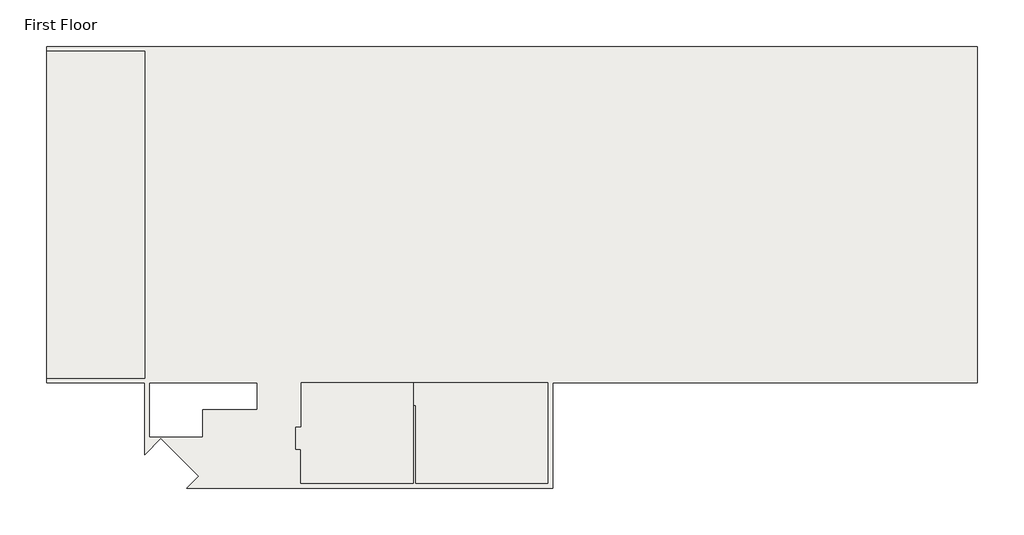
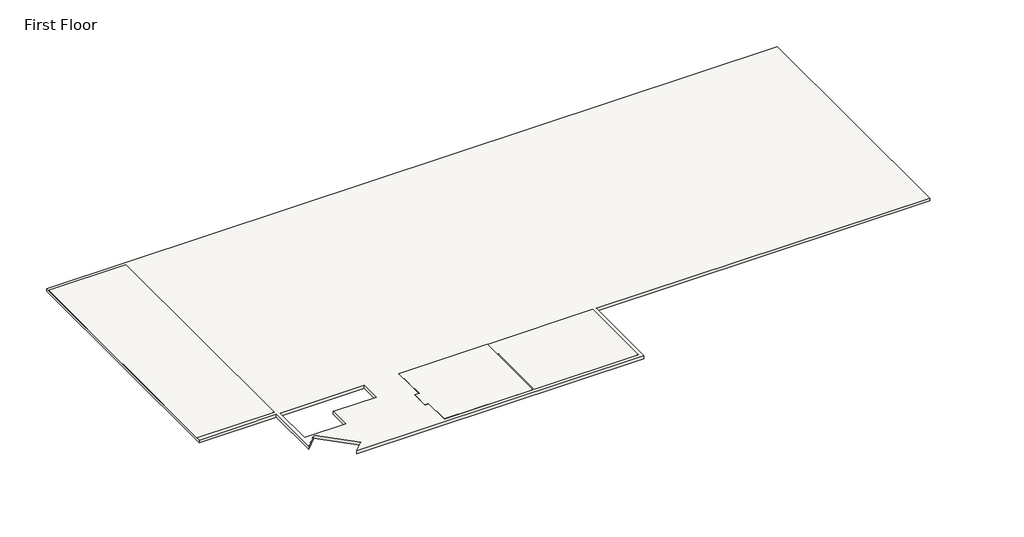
# One storey: 4 slabs.
"""IFC4 building model written with IfcOpenShell, lengths in millimetres."""

import ifcopenshell
import ifcopenshell.guid

model = None  # the IFC model being written
_history = None  # IfcOwnerHistory: only IFC2X3 demands one
_inside = {}  # id of a spatial element -> (the spatial element, [elements in it])
_under = {}  # id of a project, library or spatial element -> (it, [spatial elements below it])
_declared = {}  # id of a project -> (the project, [libraries it declares])
_typed = {}  # id of a type object -> (the type object, [elements of that type])
_made_of = {}  # id of a material, layer set ... -> (it, [elements and type objects made of it])


def new_model(schema):
    """Start an empty IFC model of exactly this schema.

    Asked for "IFC4X3", IfcOpenShell would pick the latest addendum, in which some entities
    have other attributes; the version numbers below select the first issue.
    IFC2X3 requires an IfcOwnerHistory on every rooted entity: one is made here for all.
    """
    global model, _history
    if schema == "IFC4X3":
        model = ifcopenshell.file(schema_version=(4, 3, 0, 0))
    else:
        model = ifcopenshell.file(schema=schema)
    _inside.clear()
    _under.clear()
    _declared.clear()
    _typed.clear()
    _made_of.clear()
    _history = None
    if model.schema == "IFC2X3":
        org = make("IfcOrganization", Name="unknown")
        user = make(
            "IfcPersonAndOrganization",
            ThePerson=make("IfcPerson", FamilyName="unknown"),
            TheOrganization=org,
        )
        app = make(
            "IfcApplication",
            ApplicationDeveloper=org,
            Version="unknown",
            ApplicationFullName="unknown",
            ApplicationIdentifier="unknown",
        )
        _history = make(
            "IfcOwnerHistory",
            OwningUser=user,
            OwningApplication=app,
            ChangeAction="ADDED",
            CreationDate=0,
        )
    return model


def make(cls, **values):
    """One entity of the class cls with the attributes given. An attribute that is None is left unset."""
    return model.create_entity(
        cls, **{name: value for name, value in values.items() if value is not None}
    )


def rooted(cls, **values):
    """An entity with a GlobalId (a new one), such as an element, a storey or a relation."""
    return make(cls, GlobalId=ifcopenshell.guid.new(), OwnerHistory=_history, **values)


def si_unit(unit_type, name, prefix=None):
    """IfcSIUnit, for example si_unit("LENGTHUNIT", "METRE", prefix="MILLI")."""
    return make("IfcSIUnit", UnitType=unit_type, Prefix=prefix, Name=name)


def assignment(units):
    """IfcUnitAssignment: the units of a project."""
    return None if units is None else make("IfcUnitAssignment", Units=units)


def point(xyz):
    """IfcCartesianPoint."""
    return None if xyz is None else make("IfcCartesianPoint", Coordinates=xyz)


def direction(xyz):
    """IfcDirection."""
    return None if xyz is None else make("IfcDirection", DirectionRatios=xyz)


def frame(location, z_axis=None, x_axis=None):
    """IfcAxis2Placement3D, a coordinate frame: its origin and axes. An axis left out is left unset."""
    return make(
        "IfcAxis2Placement3D",
        Location=point(location),
        Axis=direction(z_axis),
        RefDirection=direction(x_axis),
    )


def origin():
    """The frame at (0, 0, 0) with its axes left unset."""
    return frame((0.0, 0.0, 0.0))


def place(relative_to, where):
    """IfcLocalPlacement: puts the frame where relative to a parent placement (None: the world)."""
    return make(
        "IfcLocalPlacement", PlacementRelTo=relative_to, RelativePlacement=where
    )


def context(
    kind, dimensions, precision=None, world=None, true_north=None, identifier=None
):
    """IfcGeometricRepresentationContext, for example the 3D "Model" context."""
    return make(
        "IfcGeometricRepresentationContext",
        ContextIdentifier=identifier,
        ContextType=kind,
        CoordinateSpaceDimension=dimensions,
        Precision=precision,
        WorldCoordinateSystem=world,
        TrueNorth=true_north,
    )


def project(units=None, contexts=None):
    """IfcProject with its units and contexts."""
    return rooted(
        "IfcProject",
        Name="project",
        RepresentationContexts=contexts,
        UnitsInContext=assignment(units),
    )


def spatial(cls, under=None, at=None, **own):
    """A site, building, storey or space (cls), placed at a placement, below another one or the project."""
    s = rooted(cls, ObjectPlacement=at, **own)
    if under is not None:
        _under.setdefault(under.id(), (under, []))[1].append(s)
    return s


def polyline(points):
    """IfcPolyline through the points."""
    return make("IfcPolyline", Points=[point(p) for p in points])


def outline(outer, holes=None, kind="AREA"):
    """IfcArbitraryClosedProfileDef: a profile drawn as a closed curve; with holes, ...WithVoids."""
    if holes is None:
        return make("IfcArbitraryClosedProfileDef", ProfileType=kind, OuterCurve=outer)
    return make(
        "IfcArbitraryProfileDefWithVoids",
        ProfileType=kind,
        OuterCurve=outer,
        InnerCurves=holes,
    )


def extrude(swept, where, along, depth):
    """IfcExtrudedAreaSolid: the profile swept, set in the frame where, extruded along a direction by depth."""
    return make(
        "IfcExtrudedAreaSolid",
        SweptArea=swept,
        Position=where,
        ExtrudedDirection=direction(along),
        Depth=depth,
    )


def shape(context_of_items, identifier, shape_type, items):
    """IfcShapeRepresentation: the items that make up one representation, for example the "Body"."""
    return make(
        "IfcShapeRepresentation",
        ContextOfItems=context_of_items,
        RepresentationIdentifier=identifier,
        RepresentationType=shape_type,
        Items=items,
    )


def made_of(thing, what):
    """Note that an element or type object is made of a material, layer set ...; save() writes the relation."""
    if what is not None:
        _made_of.setdefault(what.id(), (what, []))[1].append(thing)
    return thing


def element(
    cls,
    number,
    at=None,
    inside=None,
    cuts=None,
    type_object=None,
    material=None,
    context=None,
    identifier="Body",
    shape_type=None,
    held_by="IfcProductDefinitionShape",
    body=None,
    shapes=None,
    **own,
):
    """One element of the class cls, such as IfcWall. Its Tag is "e" and its number.

    at: its placement. inside: the storey or other place that contains it. cuts: it is an
    opening in that element (IfcRelVoidsElement). A single representation is given by context,
    identifier, shape_type and body (its items); several are given by shapes. held_by: the class
    of the entity that holds the representations. save() writes the other relations.
    """
    e = rooted(cls, Tag="e%d" % number, ObjectPlacement=at, **own)
    if body is not None:
        shapes = [shape(context, identifier, shape_type, body)]
    if shapes is not None:
        e.Representation = make(held_by, Representations=shapes)
    if inside is not None:
        _inside.setdefault(inside.id(), (inside, []))[1].append(e)
    if cuts is not None:
        rooted(
            "IfcRelVoidsElement", RelatingBuildingElement=cuts, RelatedOpeningElement=e
        )
    if type_object is not None:
        _typed.setdefault(type_object.id(), (type_object, []))[1].append(e)
    return made_of(e, material)


def aggregate(whole, parts):
    """IfcRelAggregates: a whole, such as a stair, and the parts it consists of."""
    return rooted("IfcRelAggregates", RelatingObject=whole, RelatedObjects=parts)


def save(model, path):
    """Write the relations noted so far, then the file.

    IfcRelAggregates (storeys below a building ...), IfcRelContainedInSpatialStructure (elements
    in a storey), IfcRelDefinesByType, IfcRelAssociatesMaterial and IfcRelDeclares: one each for
    every whole, place, type object, material and project.
    """
    for whole, parts in _under.values():
        aggregate(whole, parts)
    for where, things in _inside.values():
        rooted(
            "IfcRelContainedInSpatialStructure",
            RelatedElements=things,
            RelatingStructure=where,
        )
    for kind, things in _typed.values():
        rooted("IfcRelDefinesByType", RelatedObjects=things, RelatingType=kind)
    for what, things in _made_of.values():
        rooted("IfcRelAssociatesMaterial", RelatedObjects=things, RelatingMaterial=what)
    for by, libraries in _declared.values():
        rooted("IfcRelDeclares", RelatingContext=by, RelatedDefinitions=libraries)
    model.write(path)


model = new_model("IFC4")

# Units and contexts
model_context = context("Model", 3, world=origin())
ifc_project = project(units=[si_unit("LENGTHUNIT", "METRE", prefix="MILLI")], contexts=[model_context])

# Site, building, storey
site = spatial("IfcSite", under=ifc_project)
building = spatial("IfcBuilding", under=site)
storey = spatial("IfcBuildingStorey", under=building, Name="First Floor", Elevation=3048.0)

# Slabs
placement = place(None, origin())
element("IfcSlab", 1, ObjectType="1' x 1' tile (45deg) floor-waiting", at=placement, inside=storey, context=model_context, shape_type="SweptSolid", body=[
    extrude(outline(polyline([(-33645.077824, 4662.46029), (-33645.077824, 6046.76029), (-33851.452824, 6046.76029), (-33851.452824, 6961.16029), (-33632.377824, 6961.16029), (-33632.377824, 8766.14779), (-29049.265324, 8766.14779), (-29049.265324, 4662.46029), (-33645.077824, 4662.46029)])), frame((0.0, 0.0, 3048.0), z_axis=(0.0, 0.0, 1.0), x_axis=(1.0, 0.0, 0.0)), (0.0, 0.0, 1.0), 12.7),
])
element("IfcSlab", 2, ObjectType="1' x 1' tile floor-Balcony", at=placement, inside=storey, context=model_context, shape_type="SweptSolid", body=[
    extrude(outline(polyline([(-40025.240324, 8959.82279), (-44043.202824, 8959.82279), (-44043.202824, 22320.22279), (-40025.240324, 22320.22279), (-40025.240324, 8959.82279)])), frame((0.0, 0.0, 3048.0), z_axis=(0.0, 0.0, 1.0), x_axis=(1.0, 0.0, 0.0)), (0.0, 0.0, 1.0), 12.7),
])
element("IfcSlab", 3, ObjectType="1' x 1' tile floor-toilet", at=placement, inside=storey, context=model_context, shape_type="SweptSolid", body=[
    extrude(outline(polyline([(-23553.340324, 8766.14779), (-23553.340324, 4662.46029), (-28957.190324, 4662.46029), (-28957.190324, 7851.74779), (-29065.140324, 7851.74779), (-29065.140324, 8766.14779), (-23553.340324, 8766.14779)])), frame((0.0, 0.0, 3048.0), z_axis=(0.0, 0.0, 1.0), x_axis=(1.0, 0.0, 0.0)), (0.0, 0.0, 1.0), 12.7),
])
element("IfcSlab", 4, ObjectType="6\"Slab", at=placement, inside=storey, context=model_context, shape_type="SweptSolid", body=[
    extrude(outline(polyline([(-44043.202824, 8766.14779), (-44043.202824, 22513.89779), (-5998.765324, 22513.89779), (-5998.765324, 8766.14779), (-23359.665324, 8766.14779), (-23359.665324, 4468.78529), (-38320.4582358, 4468.78529), (-37830.7605296, 4958.4829962), (-39379.8675399, 6507.5900066), (-40025.240324, 5839.2869249), (-40025.240324, 8766.14779), (-44043.202824, 8766.14779)]), holes=[polyline([(-35450.065324, 8753.44779), (-39818.865324, 8753.44779), (-39818.865324, 6564.1904511), (-37685.265324, 6564.1904511), (-37685.265324, 7686.64779), (-35450.065324, 7686.64779), (-35450.065324, 8753.44779)])]), frame((0.0, 0.0, 2895.6), z_axis=(0.0, 0.0, 1.0), x_axis=(1.0, 0.0, 0.0)), (0.0, 0.0, 1.0), 152.4),
])

save(model, "model.ifc")
